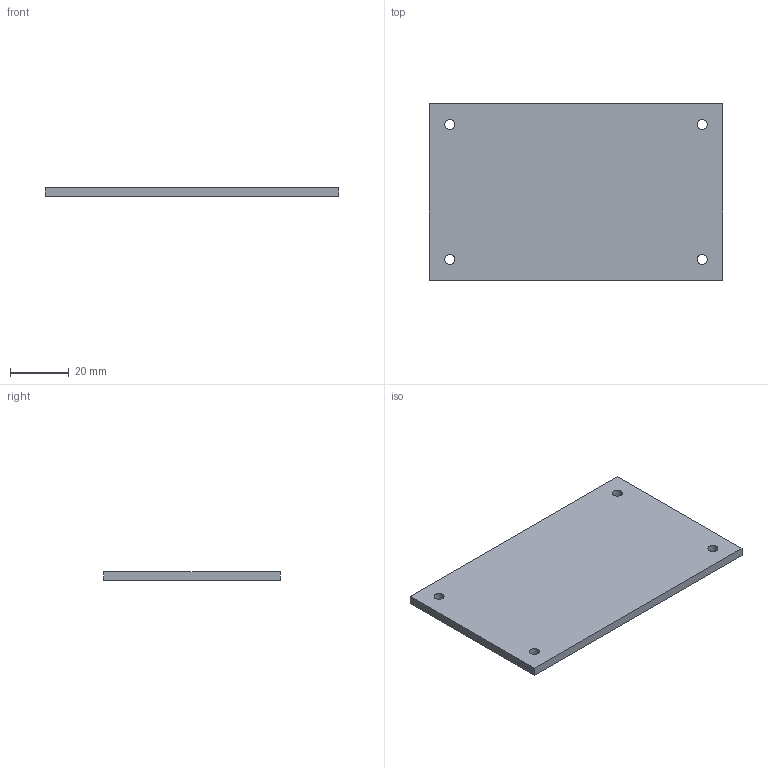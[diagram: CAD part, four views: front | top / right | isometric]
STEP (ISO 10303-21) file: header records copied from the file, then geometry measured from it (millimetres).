
FILE_DESCRIPTION(('Open CASCADE Model'),'2;1');
FILE_NAME('Open CASCADE Shape Model','2026-10-21T17:23:50',('Author'),( 'Open CASCADE'),'Open CASCADE STEP processor 7.9','Open CASCADE 7.9' ,'Unknown');
FILE_SCHEMA(('AUTOMOTIVE_DESIGN { 1 0 10303 214 1 1 1 1 }'));
Length unit declared in the file: millimetre
Products named in the file (1): Open CASCADE STEP translator 7.9 32
Bounding box: 100 x 60 x 3 mm (x, y, z)
Volume: 17891 mm3; surface area: 13015.5 mm2
Topology: 1 solids, 1 shells, 10 faces, 24 edges, 16 vertices
Faces by surface type: plane 6, cylinder 4
Full cylindrical faces by diameter (mm): 3.4 x4
Entity records: 658 total; most frequent: CARTESIAN_POINT 147, DIRECTION 94, LINE 56, VECTOR 56, ORIENTED_EDGE 48, PCURVE 48, DEFINITIONAL_REPRESENTATION 48, EDGE_CURVE 24
